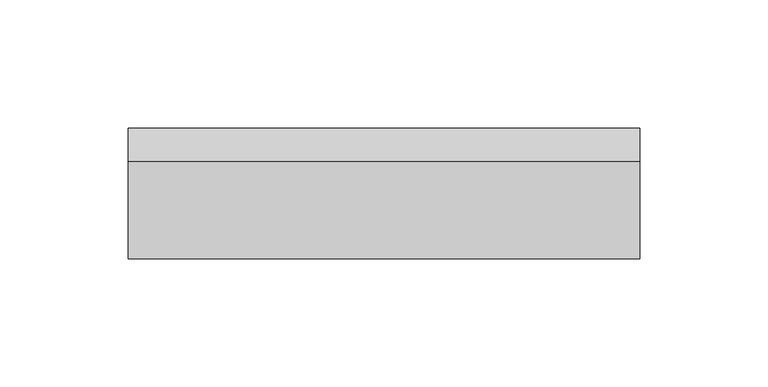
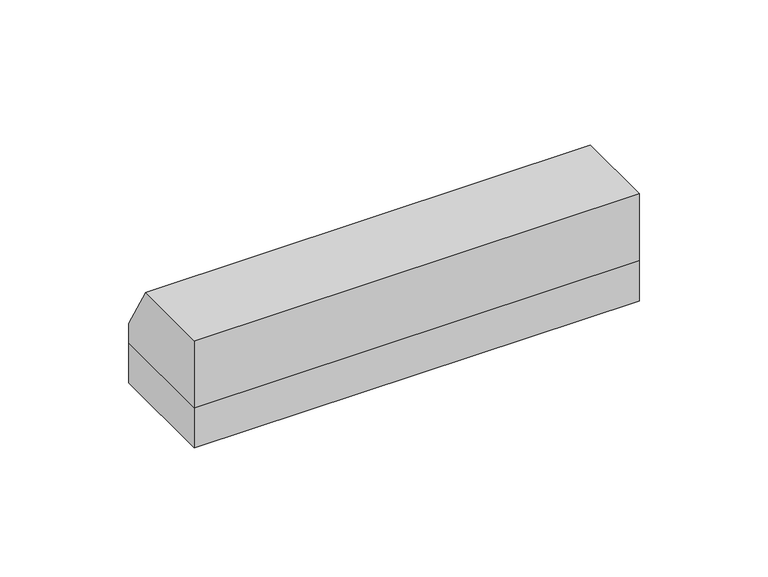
"""IFC4 building model written with IfcOpenShell, lengths in millimetres: proxy geometry, Spinneybeck_ARO Plank 7 : B - 2’-7” x 2” x 1 1/4”."""

from ifc_helpers import new_model, si_unit, frame, origin, origin_with_axes, place, context, project, spatial, polyline, outline, extrude, source, transform, mapped, element, save


def specialty_equipment_b6bac791(model_context):
    return source(origin(), model_context, "Body", "SweptSolid", [
        extrude(outline(polyline([(25.4, 19.05), (-25.4, 19.05), (-25.4, 50.8), (12.4059581, 50.8), (25.4, 28.2936592), (25.4, 19.05)])), frame((-99.6792989, 0.0, 0.0), z_axis=(1.0, 0.0, 0.0), x_axis=(0.0, 1.0, 0.0)), (0.0, 0.0, 1.0), 199.3585978),
        extrude(outline(polyline([(-99.6792989, -25.4), (-99.6792989, 25.4), (99.6792989, 25.4), (99.6792989, -25.4), (-99.6792989, -25.4)])), origin_with_axes(), (0.0, 0.0, 1.0), 19.05),
    ])


if __name__ == "__main__":
    model = new_model("IFC4")
    model_context = context("Model", 3, world=origin())
    ifc_project = project(units=[si_unit("LENGTHUNIT", "METRE", prefix="MILLI")], contexts=[model_context])
    site = spatial("IfcSite", under=ifc_project)
    building = spatial("IfcBuilding", under=site)
    placement = place(None, origin())
    specialty_equipment_shape = specialty_equipment_b6bac791(model_context)
    element("IfcBuildingElementProxy", 1, Name="Spinneybeck_ARO Plank 7 : B - 2’-7” x 2” x 1 1/4”", ObjectType="Spinneybeck_ARO Plank 7 : B - 2’-7” x 2” x 1 1/4”", at=placement, inside=building, context=model_context, shape_type="MappedRepresentation", body=[
        mapped(specialty_equipment_shape, transform((0.0, 0.0, 0.0), x_axis=(1.0, 0.0, 0.0), y_axis=(0.0, 1.0, 0.0), z_axis=(0.0, 0.0, 1.0))),
    ])
    save(model, "model.ifc")
